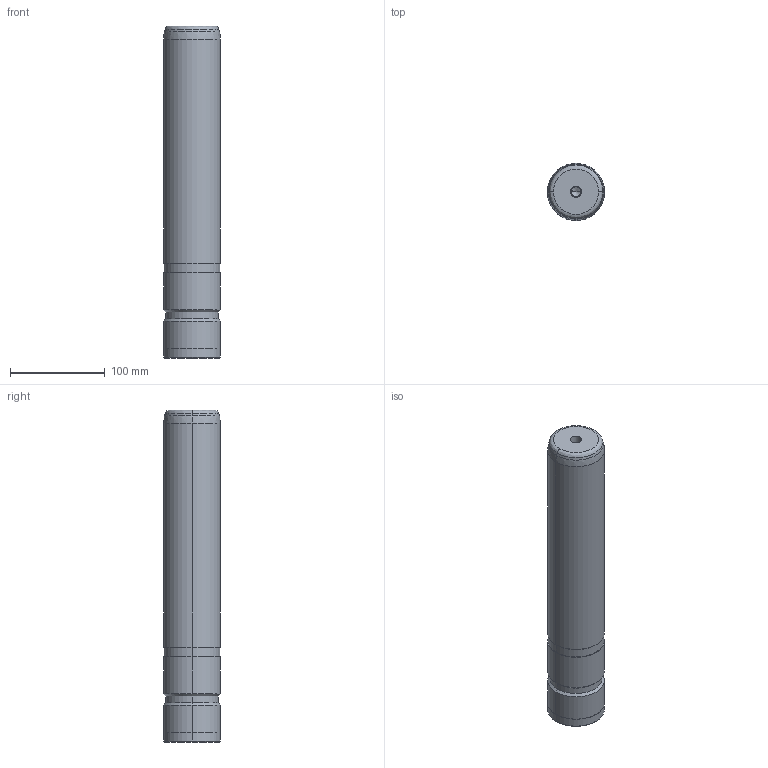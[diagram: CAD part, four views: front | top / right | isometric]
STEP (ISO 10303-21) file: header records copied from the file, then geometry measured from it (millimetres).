
FILE_DESCRIPTION((''),'2;1');
FILE_NAME('','2010-08-31T09:45:18+09:00',('misumi'),(''),'M/STEP i/f 1R2-14','CADmeister v5.1','');
FILE_SCHEMA(('AUTOMOTIVE_DESIGN'));
Length unit declared in the file: millimetre
Products named in the file (1): GPM60-350
Bounding box: 60 x 60 x 350 mm (x, y, z)
Volume: 977510.8 mm3; surface area: 72303.5 mm2
Topology: 1 solids, 1 shells, 36 faces, 72 edges, 41 vertices
Faces by surface type: cylinder 16, cone 10, plane 6, revolution 4
Entity records: 1024 total; most frequent: DIRECTION 188, CARTESIAN_POINT 158, ORIENTED_EDGE 140, AXIS2_PLACEMENT_3D 79, EDGE_CURVE 70, CIRCLE 46, VERTEX_POINT 41, EDGE_LOOP 41
